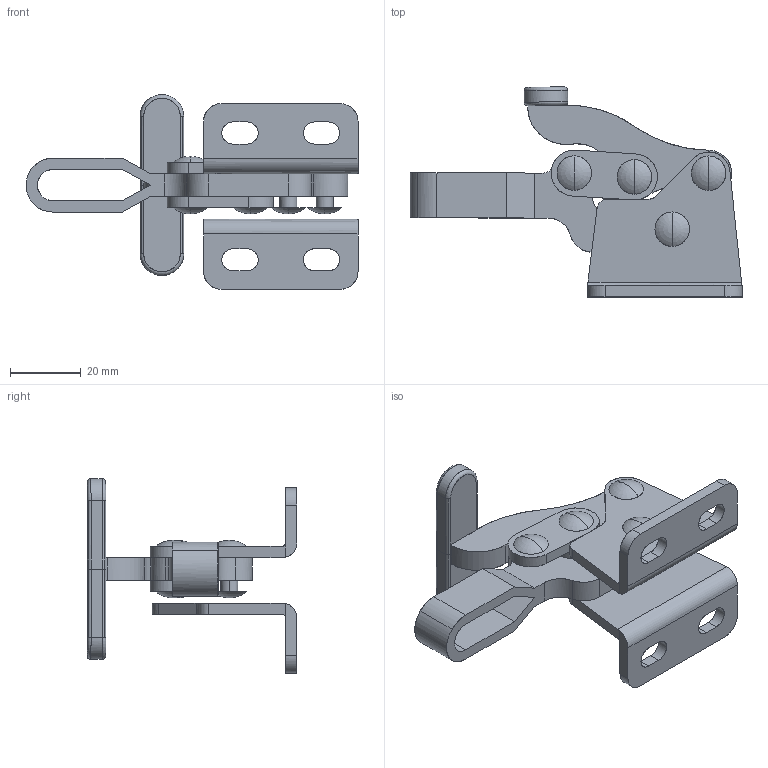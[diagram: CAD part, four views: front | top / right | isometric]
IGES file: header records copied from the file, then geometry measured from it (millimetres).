
Start section: Comment
Global section: file name: 13007.igs; native system:  By Spatial Corp.; preprocessor: XPlus PS/IGES 3.0; author: Author; organization: Title; date: 20050216.173351; units: inch
Bounding box: 93.69 x 59.25 x 54.89 mm (x, y, z)
Surface area: 24213.2 mm2 (no closed solid volume)
Topology: 0 solids, 0 shells, 224 faces, 1172 edges, 1152 vertices
Faces by surface type: revolution 134, extrusion 90
